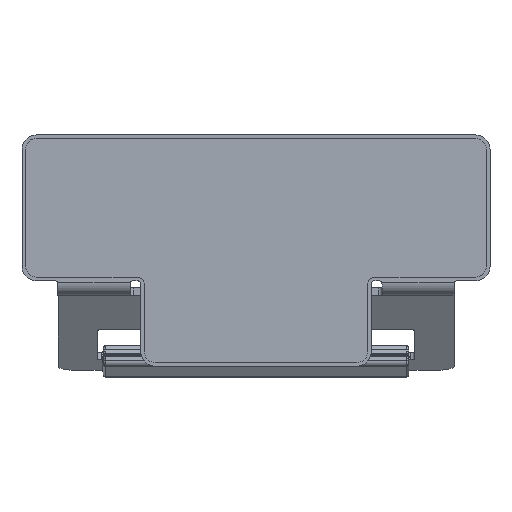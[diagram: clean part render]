
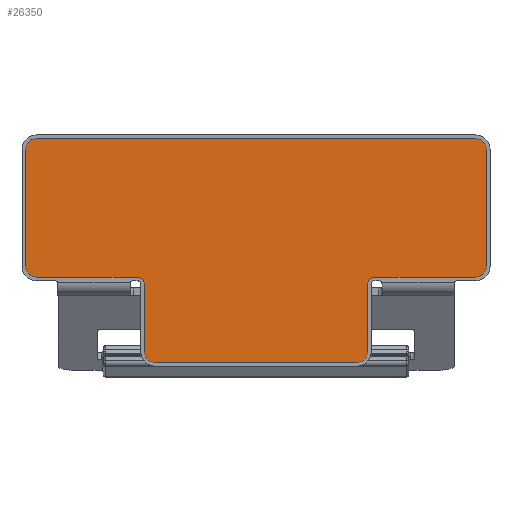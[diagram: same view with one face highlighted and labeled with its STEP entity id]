
A CAD part, front view. The second image highlights one B-rep face of the part: STEP entity #26350.
In plain terms, the highlighted planar face has unit normal (0, -1, 0).
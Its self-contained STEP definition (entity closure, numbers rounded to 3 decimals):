
#6910=DIRECTION('',(-1.,0.,0.));
#6911=VECTOR('',#6910,244.);
#6912=CARTESIAN_POINT('',(122.,-112.7,83.));
#6913=LINE('',#6912,#6911);
#6914=CARTESIAN_POINT('',(122.,-112.7,77.));
#6915=DIRECTION('',(0.,-1.,0.));
#6916=DIRECTION('',(1.,0.,0.));
#6917=AXIS2_PLACEMENT_3D('',#6914,#6915,#6916);
#6919=DIRECTION('',(0.,0.,1.));
#6920=VECTOR('',#6919,65.);
#6921=CARTESIAN_POINT('',(128.,-112.7,12.));
#6922=LINE('',#6921,#6920);
#6923=CARTESIAN_POINT('',(122.,-112.7,12.));
#6924=DIRECTION('',(0.,-1.,0.));
#6925=DIRECTION('',(0.,0.,-1.));
#6926=AXIS2_PLACEMENT_3D('',#6923,#6924,#6925);
#6928=DIRECTION('',(1.,0.,0.));
#6929=VECTOR('',#6928,56.);
#6930=CARTESIAN_POINT('',(66.,-112.7,6.));
#6931=LINE('',#6930,#6929);
#6932=CARTESIAN_POINT('',(66.,-112.7,2.));
#6933=DIRECTION('',(0.,1.,0.));
#6934=DIRECTION('',(-1.,0.,0.));
#6935=AXIS2_PLACEMENT_3D('',#6932,#6933,#6934);
#6937=DIRECTION('',(0.,0.,1.));
#6938=VECTOR('',#6937,37.5);
#6939=CARTESIAN_POINT('',(62.,-112.7,-35.5));
#6940=LINE('',#6939,#6938);
#6941=CARTESIAN_POINT('',(56.,-112.7,-35.5));
#6942=DIRECTION('',(0.,-1.,0.));
#6943=DIRECTION('',(0.,0.,-1.));
#6944=AXIS2_PLACEMENT_3D('',#6941,#6942,#6943);
#6946=DIRECTION('',(1.,0.,0.));
#6947=VECTOR('',#6946,112.);
#6948=CARTESIAN_POINT('',(-56.,-112.7,-41.5));
#6949=LINE('',#6948,#6947);
#6950=CARTESIAN_POINT('',(-56.,-112.7,-35.5));
#6951=DIRECTION('',(0.,-1.,0.));
#6952=DIRECTION('',(-1.,0.,0.));
#6953=AXIS2_PLACEMENT_3D('',#6950,#6951,#6952);
#6955=DIRECTION('',(0.,0.,-1.));
#6956=VECTOR('',#6955,37.5);
#6957=CARTESIAN_POINT('',(-62.,-112.7,2.));
#6958=LINE('',#6957,#6956);
#6959=CARTESIAN_POINT('',(-66.,-112.7,2.));
#6960=DIRECTION('',(0.,1.,0.));
#6961=DIRECTION('',(0.,0.,1.));
#6962=AXIS2_PLACEMENT_3D('',#6959,#6960,#6961);
#6964=DIRECTION('',(1.,0.,0.));
#6965=VECTOR('',#6964,56.);
#6966=CARTESIAN_POINT('',(-122.,-112.7,6.));
#6967=LINE('',#6966,#6965);
#6968=CARTESIAN_POINT('',(-122.,-112.7,12.));
#6969=DIRECTION('',(0.,-1.,0.));
#6970=DIRECTION('',(-1.,0.,0.));
#6971=AXIS2_PLACEMENT_3D('',#6968,#6969,#6970);
#6973=DIRECTION('',(0.,0.,-1.));
#6974=VECTOR('',#6973,65.);
#6975=CARTESIAN_POINT('',(-128.,-112.7,77.));
#6976=LINE('',#6975,#6974);
#6977=CARTESIAN_POINT('',(-122.,-112.7,77.));
#6978=DIRECTION('',(0.,-1.,0.));
#6979=DIRECTION('',(0.,0.,1.));
#6980=AXIS2_PLACEMENT_3D('',#6977,#6978,#6979);
#12301=CARTESIAN_POINT('',(122.,-112.7,83.));
#12302=CARTESIAN_POINT('',(-122.,-112.7,83.));
#12303=VERTEX_POINT('',#12301);
#12304=VERTEX_POINT('',#12302);
#12305=CARTESIAN_POINT('',(128.,-112.7,77.));
#12306=VERTEX_POINT('',#12305);
#12307=CARTESIAN_POINT('',(128.,-112.7,12.));
#12308=VERTEX_POINT('',#12307);
#12309=CARTESIAN_POINT('',(122.,-112.7,6.));
#12310=VERTEX_POINT('',#12309);
#12311=CARTESIAN_POINT('',(66.,-112.7,6.));
#12312=VERTEX_POINT('',#12311);
#12313=CARTESIAN_POINT('',(62.,-112.7,2.));
#12314=VERTEX_POINT('',#12313);
#12315=CARTESIAN_POINT('',(62.,-112.7,-35.5));
#12316=VERTEX_POINT('',#12315);
#12317=CARTESIAN_POINT('',(56.,-112.7,-41.5));
#12318=VERTEX_POINT('',#12317);
#12319=CARTESIAN_POINT('',(-56.,-112.7,-41.5));
#12320=VERTEX_POINT('',#12319);
#12321=CARTESIAN_POINT('',(-62.,-112.7,-35.5));
#12322=VERTEX_POINT('',#12321);
#12323=CARTESIAN_POINT('',(-62.,-112.7,2.));
#12324=VERTEX_POINT('',#12323);
#12325=CARTESIAN_POINT('',(-66.,-112.7,6.));
#12326=VERTEX_POINT('',#12325);
#12327=CARTESIAN_POINT('',(-122.,-112.7,6.));
#12328=VERTEX_POINT('',#12327);
#12329=CARTESIAN_POINT('',(-128.,-112.7,12.));
#12330=VERTEX_POINT('',#12329);
#12331=CARTESIAN_POINT('',(-128.,-112.7,77.));
#12332=VERTEX_POINT('',#12331);
#26327=CARTESIAN_POINT('',(0.,-112.7,20.75));
#26328=DIRECTION('',(0.,1.,0.));
#26329=DIRECTION('',(1.,0.,0.));
#26330=AXIS2_PLACEMENT_3D('',#26327,#26328,#26329);
#26331=PLANE('',#26330);
#26332=ORIENTED_EDGE('',*,*,#25999,.F.);
#26333=ORIENTED_EDGE('',*,*,#26021,.F.);
#26334=ORIENTED_EDGE('',*,*,#26042,.F.);
#26335=ORIENTED_EDGE('',*,*,#26063,.F.);
#26336=ORIENTED_EDGE('',*,*,#26084,.F.);
#26337=ORIENTED_EDGE('',*,*,#26105,.F.);
#26338=ORIENTED_EDGE('',*,*,#26126,.F.);
#26339=ORIENTED_EDGE('',*,*,#26147,.F.);
#26340=ORIENTED_EDGE('',*,*,#26168,.F.);
#26341=ORIENTED_EDGE('',*,*,#26189,.F.);
#26342=ORIENTED_EDGE('',*,*,#26210,.F.);
#26343=ORIENTED_EDGE('',*,*,#26231,.F.);
#26344=ORIENTED_EDGE('',*,*,#26252,.F.);
#26345=ORIENTED_EDGE('',*,*,#26273,.F.);
#26346=ORIENTED_EDGE('',*,*,#26294,.F.);
#26347=ORIENTED_EDGE('',*,*,#26314,.F.);
#26348=EDGE_LOOP('',(#26332,#26333,#26334,#26335,#26336,#26337,#26338,#26339,
#26340,#26341,#26342,#26343,#26344,#26345,#26346,#26347));
#26349=FACE_OUTER_BOUND('',#26348,.F.);
#26350=ADVANCED_FACE('',(#26349),#26331,.F.);
#6918=CIRCLE('',#6917,6.);
#6927=CIRCLE('',#6926,6.);
#6936=CIRCLE('',#6935,4.);
#6945=CIRCLE('',#6944,6.);
#6954=CIRCLE('',#6953,6.);
#6963=CIRCLE('',#6962,4.);
#6972=CIRCLE('',#6971,6.);
#6981=CIRCLE('',#6980,6.);
#25999=EDGE_CURVE('',#12303,#12304,#6913,.T.);
#26021=EDGE_CURVE('',#12306,#12303,#6918,.T.);
#26042=EDGE_CURVE('',#12308,#12306,#6922,.T.);
#26063=EDGE_CURVE('',#12310,#12308,#6927,.T.);
#26084=EDGE_CURVE('',#12312,#12310,#6931,.T.);
#26105=EDGE_CURVE('',#12314,#12312,#6936,.T.);
#26126=EDGE_CURVE('',#12316,#12314,#6940,.T.);
#26147=EDGE_CURVE('',#12318,#12316,#6945,.T.);
#26168=EDGE_CURVE('',#12320,#12318,#6949,.T.);
#26189=EDGE_CURVE('',#12322,#12320,#6954,.T.);
#26210=EDGE_CURVE('',#12324,#12322,#6958,.T.);
#26231=EDGE_CURVE('',#12326,#12324,#6963,.T.);
#26252=EDGE_CURVE('',#12328,#12326,#6967,.T.);
#26273=EDGE_CURVE('',#12330,#12328,#6972,.T.);
#26294=EDGE_CURVE('',#12332,#12330,#6976,.T.);
#26314=EDGE_CURVE('',#12304,#12332,#6981,.T.);
